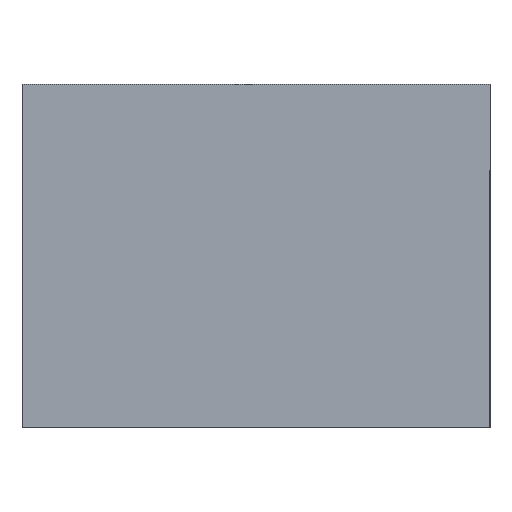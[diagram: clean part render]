
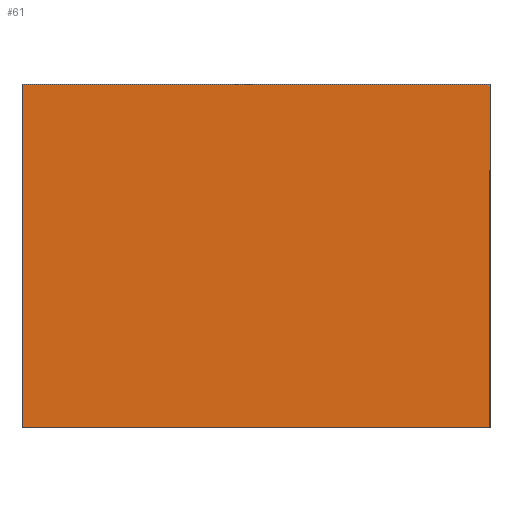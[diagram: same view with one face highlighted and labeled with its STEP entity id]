
A CAD part, front view. The second image highlights one B-rep face of the part: STEP entity #61.
In plain terms, the highlighted planar face has unit normal (0, -1, 0).
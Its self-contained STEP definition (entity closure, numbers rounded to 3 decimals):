
#61 = ADVANCED_FACE ( 'NONE', ( #2264 ), #1652, .F. ) ;
#204 = DIRECTION ( 'NONE',  ( -1., 0., 0. ) ) ;
#338 = ORIENTED_EDGE ( 'NONE', *, *, #574, .F. ) ;
#574 = EDGE_CURVE ( 'NONE', #2076, #1625, #1796, .T. ) ;
#617 = LINE ( 'NONE', #733, #1031 ) ;
#640 = VERTEX_POINT ( 'NONE', #1912 ) ;
#653 = CARTESIAN_POINT ( 'NONE',  ( -37.5, 0., 27.5 ) ) ;
#659 = DIRECTION ( 'NONE',  ( 1., 0., 0. ) ) ;
#686 = LINE ( 'NONE', #869, #1112 ) ;
#718 = VECTOR ( 'NONE', #2256, 1000. ) ;
#733 = CARTESIAN_POINT ( 'NONE',  ( -37.5, 0., -27.5 ) ) ;
#869 = CARTESIAN_POINT ( 'NONE',  ( -37.5, 0., -27.5 ) ) ;
#1031 = VECTOR ( 'NONE', #204, 1000. ) ;
#1054 = EDGE_CURVE ( 'NONE', #640, #1693, #617, .T. ) ;
#1056 = DIRECTION ( 'NONE',  ( 0., 0., 1. ) ) ;
#1112 = VECTOR ( 'NONE', #1056, 1000. ) ;
#1193 = LINE ( 'NONE', #2080, #718 ) ;
#1291 = CARTESIAN_POINT ( 'NONE',  ( 37.5, 0., 27.5 ) ) ;
#1442 = VECTOR ( 'NONE', #659, 1000. ) ;
#1563 = AXIS2_PLACEMENT_3D ( 'NONE', #2233, #2223, #2242 ) ;
#1607 = ORIENTED_EDGE ( 'NONE', *, *, #2250, .F. ) ;
#1625 = VERTEX_POINT ( 'NONE', #1291 ) ;
#1652 = PLANE ( 'NONE',  #1563 ) ;
#1693 = VERTEX_POINT ( 'NONE', #1833 ) ;
#1796 = LINE ( 'NONE', #653, #1442 ) ;
#1833 = CARTESIAN_POINT ( 'NONE',  ( -37.5, 0., -27.5 ) ) ;
#1912 = CARTESIAN_POINT ( 'NONE',  ( 37.5, 0., -27.5 ) ) ;
#1965 = EDGE_CURVE ( 'NONE', #1625, #640, #1193, .T. ) ;
#2034 = EDGE_LOOP ( 'NONE', ( #2219, #338, #1607, #2195 ) ) ;
#2076 = VERTEX_POINT ( 'NONE', #2111 ) ;
#2080 = CARTESIAN_POINT ( 'NONE',  ( 37.5, 0., -27.5 ) ) ;
#2111 = CARTESIAN_POINT ( 'NONE',  ( -37.5, 0., 27.5 ) ) ;
#2195 = ORIENTED_EDGE ( 'NONE', *, *, #1054, .F. ) ;
#2219 = ORIENTED_EDGE ( 'NONE', *, *, #1965, .F. ) ;
#2223 = DIRECTION ( 'NONE',  ( 0., 1., 0. ) ) ;
#2233 = CARTESIAN_POINT ( 'NONE',  ( 0., 0., 0. ) ) ;
#2242 = DIRECTION ( 'NONE',  ( 0., 0., 1. ) ) ;
#2250 = EDGE_CURVE ( 'NONE', #1693, #2076, #686, .T. ) ;
#2256 = DIRECTION ( 'NONE',  ( 0., 0., -1. ) ) ;
#2264 = FACE_OUTER_BOUND ( 'NONE', #2034, .T. ) ;
